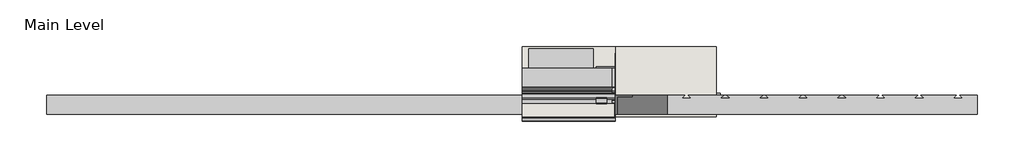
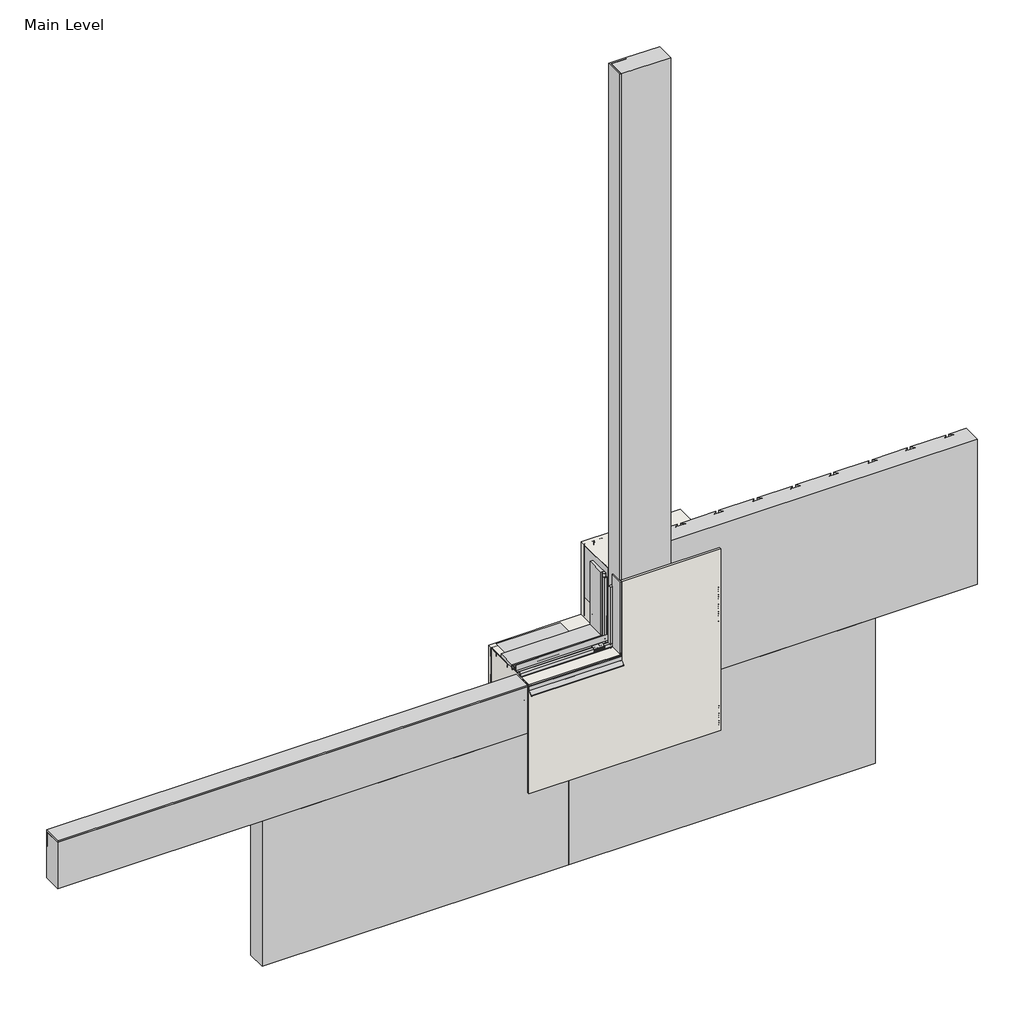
# One storey, incomplete: 29 proxies, 1 wall.
"""IFC4 building model written with IfcOpenShell, lengths in millimetres."""

from ifc_helpers import new_model, si_unit, frame, origin, place, context, project, spatial, polyline, outline, extrude, transform, mapped, element, save
from components import generic_models_31547c53, generic_models_d28646c3, generic_models_724a5e66, generic_models_aac0d774, generic_models_4f6b713c, generic_models_388356b2, generic_models_2850309d, generic_models_672f9cdd, generic_models_9b4c3a2c, generic_models_3fb7d6d8, proxy_4c3b85e5, proxy_c7e97176, proxy_59e8fef8, proxy_998bcb27, finish_coat_filler_finish_coat_filler_dfa12fb7, masonry_sill_masonry_sill_535ab80c, masonry_sill1_masonry_sill_349c8951, masonry_sill3_masonry_sill_9eb3d358, masonry_sill4_masonry_sill_f52e6068, proxy_a3fd9b0b, proxy_3a0ad636, proxy_0073da47, proxy_6f3203ff, window_header_window_header_abd4ef46, wood_blocking_5320d369

model = new_model("IFC4")

# Units and contexts
model_context = context("Model", 3, world=origin())
ifc_project = project(units=[si_unit("LENGTHUNIT", "METRE", prefix="MILLI")], contexts=[model_context])

# Site, building, storey
site = spatial("IfcSite", under=ifc_project)
building = spatial("IfcBuilding", under=site)
storey = spatial("IfcBuildingStorey", under=building, Name="Main Level", Elevation=0.0)

# Proxies
placement = place(None, origin())
generic_models_shape = generic_models_31547c53(model_context)
element("IfcBuildingElementProxy", 1, Name="Durabond Generic Model Sealant Vent : Durabond Generic Model Sealant Vent", ObjectType="Durabond Generic Model Sealant Vent : Durabond Generic Model Sealant Vent", at=placement, inside=storey, context=model_context, shape_type="MappedRepresentation", body=[
    mapped(generic_models_shape, transform((26800.7195523, 590.8476543, 464.646745), x_axis=(1.0, 0.0, 0.0), y_axis=(0.0, 0.08715574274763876, -0.9961946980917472), z_axis=(0.0, 0.9961946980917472, 0.08715574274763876))),
])
generic_models_2_shape = generic_models_d28646c3(model_context)
element("IfcBuildingElementProxy", 2, Name="CRAi Generic Model Line Based Drip Deflector : CRAi Generic Model Line Based Drip Deflector", ObjectType="CRAi Generic Model Line Based Drip Deflector : CRAi Generic Model Line Based Drip Deflector", at=placement, inside=storey, context=model_context, shape_type="MappedRepresentation", body=[
    mapped(generic_models_2_shape, transform((26855.8851773, 535.1829375, 451.8088934), x_axis=(0.0, 0.996194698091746, 0.08715574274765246), y_axis=(-1.0, 0.0, 0.0), z_axis=(0.0, -0.0871557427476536, 0.996194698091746))),
])
generic_models_3_shape = generic_models_724a5e66(model_context)
element("IfcBuildingElementProxy", 3, Name="Durabond Generic Model Insulation Adhesive Flat : Durabond Generic Model Insulation Adhesive Flat", ObjectType="Durabond Generic Model Insulation Adhesive Flat : Durabond Generic Model Insulation Adhesive Flat", at=placement, inside=storey, context=model_context, shape_type="MappedRepresentation", body=[
    mapped(generic_models_3_shape, transform((26703.4851773, 627.6316297, 381.0), x_axis=(1.0, 0.0, 0.0), y_axis=(0.0, -1.0, 0.0), z_axis=(0.0, 0.0, -1.0))),
])
element("IfcBuildingElementProxy", 4, Name="Durabond Generic Model Insulation Adhesive Flat : Durabond Generic Model Insulation Adhesive Flat", ObjectType="Durabond Generic Model Insulation Adhesive Flat : Durabond Generic Model Insulation Adhesive Flat", at=placement, inside=storey, context=model_context, shape_type="MappedRepresentation", body=[
    mapped(generic_models_3_shape, transform((26805.0851773, 627.6316297, 381.0), x_axis=(1.0, 0.0, 0.0), y_axis=(0.0, -1.0, 0.0), z_axis=(0.0, 0.0, -1.0))),
])
generic_models_4_shape = generic_models_aac0d774(model_context)
element("IfcBuildingElementProxy", 5, Name="Durabond Generic Model Insulation Adhesive Flat : Durabond Generic Model Insulation Adhesive Flat", ObjectType="Durabond Generic Model Insulation Adhesive Flat : Durabond Generic Model Insulation Adhesive Flat", at=placement, inside=storey, context=model_context, shape_type="MappedRepresentation", body=[
    mapped(generic_models_4_shape, transform((26906.6851773, 628.4443647, 685.8043344), x_axis=(1.0, 0.0, 0.0), y_axis=(0.0, -1.0, 0.0), z_axis=(0.0, 0.0, -1.0))),
])
element("IfcBuildingElementProxy", 6, Name="Durabond Generic Model Insulation Adhesive Flat : Durabond Generic Model Insulation Adhesive Flat", ObjectType="Durabond Generic Model Insulation Adhesive Flat : Durabond Generic Model Insulation Adhesive Flat", at=placement, inside=storey, context=model_context, shape_type="MappedRepresentation", body=[
    mapped(generic_models_4_shape, transform((27008.2851773, 627.6316297, 685.8), x_axis=(1.0, 0.0, 0.0), y_axis=(0.0, -1.0, 0.0), z_axis=(0.0, 0.0, -1.0))),
])
element("IfcBuildingElementProxy", 7, Name="Durabond Generic Model Insulation Adhesive Flat : Durabond Generic Model Insulation Adhesive Flat", ObjectType="Durabond Generic Model Insulation Adhesive Flat : Durabond Generic Model Insulation Adhesive Flat", at=placement, inside=storey, context=model_context, shape_type="MappedRepresentation", body=[
    mapped(generic_models_4_shape, transform((27097.1851773, 627.6316297, 685.8), x_axis=(1.0, 0.0, 0.0), y_axis=(0.0, -1.0, 0.0), z_axis=(0.0, 0.0, -1.0))),
])
element("IfcBuildingElementProxy", 8, Name="Durabond Generic Model Insulation Adhesive Flat : Durabond Generic Model Insulation Adhesive Flat", ObjectType="Durabond Generic Model Insulation Adhesive Flat : Durabond Generic Model Insulation Adhesive Flat", at=placement, inside=storey, context=model_context, shape_type="MappedRepresentation", body=[
    mapped(generic_models_4_shape, transform((27173.3851773, 627.6316297, 685.8), x_axis=(1.0, 0.0, 0.0), y_axis=(0.0, -1.0, 0.0), z_axis=(0.0, 0.0, -1.0))),
])
element("IfcBuildingElementProxy", 9, Name="Durabond Generic Model Insulation Adhesive Flat : Durabond Generic Model Insulation Adhesive Flat", ObjectType="Durabond Generic Model Insulation Adhesive Flat : Durabond Generic Model Insulation Adhesive Flat", at=placement, inside=storey, context=model_context, shape_type="MappedRepresentation", body=[
    mapped(generic_models_4_shape, transform((27249.5851773, 627.6316297, 685.8), x_axis=(1.0, 0.0, 0.0), y_axis=(0.0, -1.0, 0.0), z_axis=(0.0, 0.0, -1.0))),
])
generic_models_5_shape = generic_models_4f6b713c(model_context)
generic_models_6_shape = generic_models_388356b2(model_context)
generic_models_7_shape = generic_models_2850309d(model_context)
element("IfcBuildingElementProxy", 10, Name="CRAi Generic Model Mesh Piece Face Based : CRAi Generic Model Mesh Piece Face Based", ObjectType="CRAi Generic Model Mesh Piece Face Based : CRAi Generic Model Mesh Piece Face Based", at=placement, inside=storey, context=model_context, shape_type="MappedRepresentation", body=[
    mapped(generic_models_5_shape, transform((27052.7351773, 541.9066297, 530.3011686), x_axis=(-1.0, 0.0, 0.0), y_axis=(0.0, 0.0, -1.0), z_axis=(0.0, -1.0, 0.0))),
    mapped(generic_models_6_shape, transform((27052.7351773, 541.9066297, 530.3011686), x_axis=(-1.0, 0.0, 0.0), y_axis=(0.0, 0.0, -1.0), z_axis=(0.0, -1.0, 0.0))),
    mapped(generic_models_7_shape, transform((27052.7351773, 541.9066297, 530.3011686), x_axis=(-1.0, 0.0, 0.0), y_axis=(0.0, 0.0, -1.0), z_axis=(0.0, -1.0, 0.0))),
])
generic_models_8_shape = generic_models_672f9cdd(model_context)
generic_models_9_shape = generic_models_9b4c3a2c(model_context)
generic_models_10_shape = generic_models_3fb7d6d8(model_context)
element("IfcBuildingElementProxy", 11, Name="CRAi Generic Model Mesh Piece Face Based : CRAi Generic Model Mesh Piece Face Based", ObjectType="CRAi Generic Model Mesh Piece Face Based : CRAi Generic Model Mesh Piece Face Based", at=placement, inside=storey, context=model_context, shape_type="MappedRepresentation", body=[
    mapped(generic_models_8_shape, transform((26990.8226773, 541.9066297, 50.8), x_axis=(-1.0, 0.0, 0.0), y_axis=(0.0, 0.0, -1.0), z_axis=(0.0, -1.0, 0.0))),
    mapped(generic_models_9_shape, transform((26990.8226773, 541.9066297, 50.8), x_axis=(-1.0, 0.0, 0.0), y_axis=(0.0, 0.0, -1.0), z_axis=(0.0, -1.0, 0.0))),
    mapped(generic_models_10_shape, transform((26990.8226773, 541.9066297, 50.8), x_axis=(-1.0, 0.0, 0.0), y_axis=(0.0, 0.0, -1.0), z_axis=(0.0, -1.0, 0.0))),
])
proxy_shape = proxy_4c3b85e5(model_context)
element("IfcBuildingElementProxy", 12, Name="Durabond Generic Model Flexlite Boundary Board : 3\"", ObjectType="Durabond Generic Model Flexlite Boundary Board : 3\"", at=placement, inside=storey, context=model_context, shape_type="MappedRepresentation", body=[
    mapped(proxy_shape, transform((25839.8851773, 624.4566297, 349.375778), x_axis=(-1.0, 0.0, 0.0), y_axis=(0.0, 0.0, -1.0), z_axis=(0.0, -1.0, 0.0))),
])
proxy_2_shape = proxy_c7e97176(model_context)
element("IfcBuildingElementProxy", 13, Name="Durabond Generic Model Flexlite Boundary Board : 3\"", ObjectType="Durabond Generic Model Flexlite Boundary Board : 3\"", at=placement, inside=storey, context=model_context, shape_type="MappedRepresentation", body=[
    mapped(proxy_2_shape, transform((26957.4851773, 624.4566297, 1670.175778), x_axis=(0.0, 0.0, 1.0), y_axis=(-1.0, 0.0, 0.0), z_axis=(0.0, -1.0, 0.0))),
])
proxy_3_shape = proxy_59e8fef8(model_context)
element("IfcBuildingElementProxy", 14, Name="Durabond Generic Model Flexlite Insulation Board : 3\"", ObjectType="Durabond Generic Model Flexlite Insulation Board : 3\"", at=placement, inside=storey, context=model_context, shape_type="MappedRepresentation", body=[
    mapped(proxy_3_shape, transform((27262.2851773, 624.4566297, -57.024222), x_axis=(1.0, 0.0, 0.0), y_axis=(0.0, 0.0, 1.0), z_axis=(0.0, -1.0, 0.0))),
])
element("IfcBuildingElementProxy", 15, Name="Durabond Generic Model Flexlite Insulation Board : 3\"", ObjectType="Durabond Generic Model Flexlite Insulation Board : 3\"", at=placement, inside=storey, context=model_context, shape_type="MappedRepresentation", body=[
    mapped(proxy_3_shape, transform((27668.6851773, 624.4566297, 552.575778), x_axis=(1.0, 0.0, 0.0), y_axis=(0.0, 0.0, 1.0), z_axis=(0.0, -1.0, 0.0))),
])
proxy_4_shape = proxy_998bcb27(model_context)
element("IfcBuildingElementProxy", 16, Name="Durabond Generic Model Flexlite Insulation Board : 3\"", ObjectType="Durabond Generic Model Flexlite Insulation Board : 3\"", at=placement, inside=storey, context=model_context, shape_type="MappedRepresentation", body=[
    mapped(proxy_4_shape, transform((26043.0851773, 624.4566297, -57.024222), x_axis=(-1.0, 0.0, 0.0), y_axis=(0.0, 0.0, -1.0), z_axis=(0.0, -1.0, 0.0))),
])
finish_coat_filler_finish_coat_filler_shape = finish_coat_filler_finish_coat_filler_dfa12fb7(model_context)
element("IfcBuildingElementProxy", 17, Name="Finish Coat Filler : Finish Coat Filler", ObjectType="Finish Coat Filler : Finish Coat Filler", at=placement, inside=storey, context=model_context, shape_type="MappedRepresentation", body=[
    mapped(finish_coat_filler_finish_coat_filler_shape, transform((0.0, 0.0, 0.0), x_axis=(1.0, 0.0, 0.0), y_axis=(0.0, 1.0, 0.0), z_axis=(0.0, 0.0, 1.0))),
])
masonry_sill_masonry_sill_shape = masonry_sill_masonry_sill_535ab80c(model_context)
element("IfcBuildingElementProxy", 18, Name="Masonry Sill : Masonry Sill", ObjectType="Masonry Sill : Masonry Sill", at=placement, inside=storey, context=model_context, shape_type="MappedRepresentation", body=[
    mapped(masonry_sill_masonry_sill_shape, transform((0.0, 0.0, 0.0), x_axis=(1.0, 0.0, 0.0), y_axis=(0.0, 1.0, 0.0), z_axis=(0.0, 0.0, 1.0))),
])
masonry_sill1_masonry_sill_shape = masonry_sill1_masonry_sill_349c8951(model_context)
element("IfcBuildingElementProxy", 19, Name="Masonry Sill1 : Masonry Sill", ObjectType="Masonry Sill1 : Masonry Sill", at=placement, inside=storey, context=model_context, shape_type="MappedRepresentation", body=[
    mapped(masonry_sill1_masonry_sill_shape, transform((0.0, 0.0, 0.0), x_axis=(1.0, 0.0, 0.0), y_axis=(0.0, 1.0, 0.0), z_axis=(0.0, 0.0, 1.0))),
])
masonry_sill3_masonry_sill_shape = masonry_sill3_masonry_sill_9eb3d358(model_context)
element("IfcBuildingElementProxy", 20, Name="Masonry Sill3 : Masonry Sill", ObjectType="Masonry Sill3 : Masonry Sill", at=placement, inside=storey, context=model_context, shape_type="MappedRepresentation", body=[
    mapped(masonry_sill3_masonry_sill_shape, transform((0.0, 0.0, 0.0), x_axis=(1.0, 0.0, 0.0), y_axis=(0.0, 1.0, 0.0), z_axis=(0.0, 0.0, 1.0))),
])
masonry_sill4_masonry_sill_shape = masonry_sill4_masonry_sill_f52e6068(model_context)
element("IfcBuildingElementProxy", 21, Name="Masonry Sill4 : Masonry Sill", ObjectType="Masonry Sill4 : Masonry Sill", at=placement, inside=storey, context=model_context, shape_type="MappedRepresentation", body=[
    mapped(masonry_sill4_masonry_sill_shape, transform((0.0, 0.0, -101.6), x_axis=(1.0, 0.0, 0.0), y_axis=(0.0, 1.0, 0.0), z_axis=(0.0, 0.0, 1.0))),
])
proxy_5_shape = proxy_a3fd9b0b(model_context)
element("IfcBuildingElementProxy", 22, Name="CRAi Generic Model Metal Stud : Metal Framing Stud - 1\" x 3.5\"", ObjectType="CRAi Generic Model Metal Stud : Metal Framing Stud - 1\" x 3.5\"", at=placement, inside=storey, context=model_context, shape_type="MappedRepresentation", body=[
    mapped(proxy_5_shape, transform((26876.5226773, 726.0566297, 0.0), x_axis=(1.0, 0.0, 0.0), y_axis=(0.0, 1.0, 0.0), z_axis=(0.0, 0.0, 1.0))),
])
proxy_6_shape = proxy_3a0ad636(model_context)
element("IfcBuildingElementProxy", 23, Name="CRAi Generic Model Metal Stud : Metal Framing Stud - 1\" x 3.5\"", ObjectType="CRAi Generic Model Metal Stud : Metal Framing Stud - 1\" x 3.5\"", at=placement, inside=storey, context=model_context, shape_type="MappedRepresentation", body=[
    mapped(proxy_6_shape, transform((26876.5226773, 726.0566297, 0.0), x_axis=(1.0, 0.0, 0.0), y_axis=(0.0, 1.0, 0.0), z_axis=(0.0, 0.0, 1.0))),
])
proxy_7_shape = proxy_0073da47(model_context)
element("IfcBuildingElementProxy", 24, Name="CRAi Generic Model Metal Stud : Metal Framing Stud - 1\" x 3.5\"", ObjectType="CRAi Generic Model Metal Stud : Metal Framing Stud - 1\" x 3.5\"", at=placement, inside=storey, context=model_context, shape_type="MappedRepresentation", body=[
    mapped(proxy_7_shape, transform((26914.6226773, 726.0566297, 0.0), x_axis=(-1.0, 0.0, 0.0), y_axis=(0.0, -1.0, 0.0), z_axis=(0.0, 0.0, 1.0))),
])
proxy_8_shape = proxy_6f3203ff(model_context)
element("IfcBuildingElementProxy", 25, Name="CRAi Generic Model Metal Stud : Metal Framing Stud - 1\" x 3.5\"", ObjectType="CRAi Generic Model Metal Stud : Metal Framing Stud - 1\" x 3.5\"", at=placement, inside=storey, context=model_context, shape_type="MappedRepresentation", body=[
    mapped(proxy_8_shape, transform((26508.2226773, 726.0566297, 0.0), x_axis=(-1.0, 0.0, 0.0), y_axis=(0.0, -1.0, 0.0), z_axis=(0.0, 0.0, 1.0))),
])
window_header_window_header_shape = window_header_window_header_abd4ef46(model_context)
element("IfcBuildingElementProxy", 26, Name="Window Header : Window Header", ObjectType="Window Header : Window Header", at=placement, inside=storey, context=model_context, shape_type="MappedRepresentation", body=[
    mapped(window_header_window_header_shape, transform((0.0, 0.0, 0.0), x_axis=(1.0, 0.0, 0.0), y_axis=(0.0, 1.0, 0.0), z_axis=(0.0, 0.0, 1.0))),
])
wood_blocking_shape = wood_blocking_5320d369(model_context)
element("IfcBuildingElementProxy", 27, Name="CRAi Generic Model Line Based Metal Framing Track : Wood Blocking", ObjectType="CRAi Generic Model Line Based Metal Framing Track : Wood Blocking", at=placement, inside=storey, context=model_context, shape_type="MappedRepresentation", body=[
    mapped(wood_blocking_shape, transform((26489.1726773, 649.8566297, 304.8), x_axis=(1.0, 0.0, 0.0), y_axis=(0.0, 1.0, 0.0), z_axis=(0.0, 0.0, 1.0))),
])
element("IfcBuildingElementProxy", 28, Name="CRAi Generic Model Line Based Metal Framing Track : Wood Blocking", ObjectType="CRAi Generic Model Line Based Metal Framing Track : Wood Blocking", at=placement, inside=storey, context=model_context, shape_type="MappedRepresentation", body=[
    mapped(wood_blocking_shape, transform((26489.1726773, 802.257101, 457.2), x_axis=(1.0, 0.0, 0.0), y_axis=(0.0, -1.0, 0.0), z_axis=(0.0, 0.0, -1.0))),
])
element("IfcBuildingElementProxy", 29, Name="CRAi Generic Model Line Based Metal Framing Track : Wood Blocking", ObjectType="CRAi Generic Model Line Based Metal Framing Track : Wood Blocking", at=placement, inside=storey, context=model_context, shape_type="MappedRepresentation", body=[
    mapped(wood_blocking_shape, transform((26489.1726773, 802.2566297, 304.8), x_axis=(1.0, 0.0, 0.0), y_axis=(0.0, -1.0, 0.0), z_axis=(0.0, 0.0, -1.0))),
])

# Wall
element("IfcWall", 30, ObjectType="189mm (7.5”) EIFS Field Applied on Mtl. Stud Layer - 50mm Grooved Insulation Board Metal Stud Wall (AirStop)", at=placement, inside=storey, context=model_context, shape_type="SweptSolid", body=[
    extrude(outline(polyline([(0.0, 26489.1726773), (0.0, 27251.1726773), (762.0, 27251.1726773), (762.0, 26857.4726773), (457.2, 26857.4726773), (457.2, 26489.1726773), (0.0, 26489.1726773)])), frame((0.0, 538.7316297, 0.0), z_axis=(0.0, 1.0, 0.0), x_axis=(0.0, 0.0, 1.0)), (0.0, 0.0, 1.0), 276.225),
])

save(model, "model.ifc")
